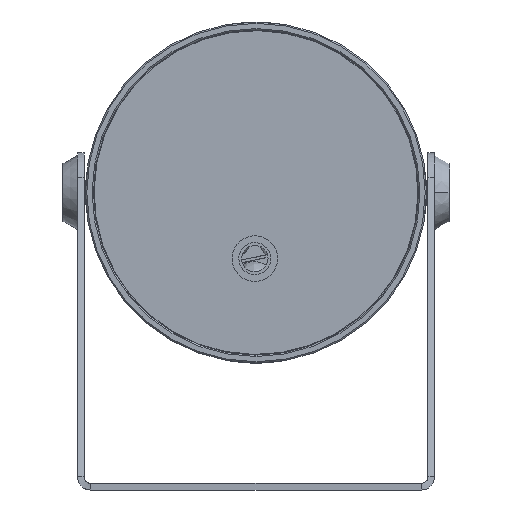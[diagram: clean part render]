
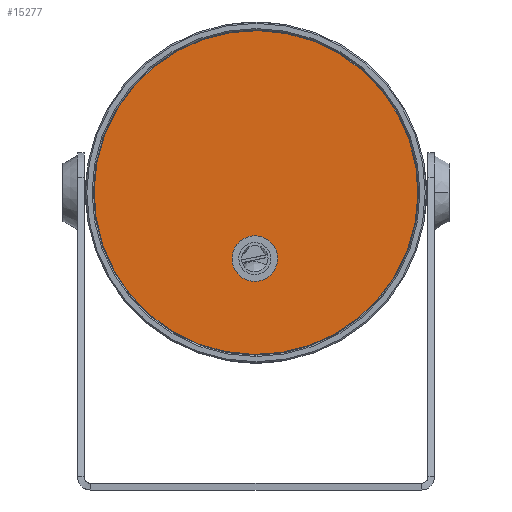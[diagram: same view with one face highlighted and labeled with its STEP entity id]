
A CAD part, front view. The second image highlights one B-rep face of the part: STEP entity #15277.
In plain terms, the highlighted planar face has unit normal (0, -1, 0).
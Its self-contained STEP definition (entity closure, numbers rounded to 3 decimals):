
#15178=CARTESIAN_POINT('',(0.,-45.,0.));
#15179=DIRECTION('',(0.,1.,0.));
#15180=DIRECTION('',(1.,0.,-0.018));
#15181=AXIS2_PLACEMENT_3D('',#15178,#15179,#15180);
#15183=CARTESIAN_POINT('',(0.,-45.,0.));
#15184=DIRECTION('',(0.,1.,0.));
#15185=DIRECTION('',(-1.,0.,0.018));
#15186=AXIS2_PLACEMENT_3D('',#15183,#15184,#15185);
#15188=CARTESIAN_POINT('',(-0.445,-45.,-24.996));
#15189=DIRECTION('',(0.,1.,0.));
#15190=DIRECTION('',(1.,0.,-0.018));
#15191=AXIS2_PLACEMENT_3D('',#15188,#15189,#15190);
#15193=CARTESIAN_POINT('',(-0.445,-45.,-24.996));
#15194=DIRECTION('',(0.,1.,0.));
#15195=DIRECTION('',(-1.,0.,0.018));
#15196=AXIS2_PLACEMENT_3D('',#15193,#15194,#15195);
#15207=CARTESIAN_POINT('',(-8.193,-45.,-24.858));
#15208=CARTESIAN_POINT('',(7.304,-45.,-25.134));
#15209=VERTEX_POINT('',#15207);
#15210=VERTEX_POINT('',#15208);
#15211=CARTESIAN_POINT('',(-61.24,-45.,1.089));
#15212=CARTESIAN_POINT('',(61.24,-45.,-1.089));
#15213=VERTEX_POINT('',#15211);
#15214=VERTEX_POINT('',#15212);
#15261=CARTESIAN_POINT('',(0.,-45.,0.));
#15262=DIRECTION('',(0.,-1.,0.));
#15263=DIRECTION('',(1.,0.,-0.018));
#15264=AXIS2_PLACEMENT_3D('',#15261,#15262,#15263);
#15265=PLANE('',#15264);
#15267=ORIENTED_EDGE('',*,*,#15266,.T.);
#15269=ORIENTED_EDGE('',*,*,#15268,.T.);
#15270=EDGE_LOOP('',(#15267,#15269));
#15271=FACE_OUTER_BOUND('',#15270,.F.);
#15273=ORIENTED_EDGE('',*,*,#15272,.F.);
#15274=ORIENTED_EDGE('',*,*,#15234,.F.);
#15275=EDGE_LOOP('',(#15273,#15274));
#15276=FACE_BOUND('',#15275,.F.);
#15277=ADVANCED_FACE('',(#15271,#15276),#15265,.T.);
#15182=CIRCLE('',#15181,61.25);
#15187=CIRCLE('',#15186,61.25);
#15192=CIRCLE('',#15191,7.75);
#15197=CIRCLE('',#15196,7.75);
#15234=EDGE_CURVE('',#15209,#15210,#15197,.T.);
#15266=EDGE_CURVE('',#15214,#15213,#15182,.T.);
#15268=EDGE_CURVE('',#15213,#15214,#15187,.T.);
#15272=EDGE_CURVE('',#15210,#15209,#15192,.T.);
